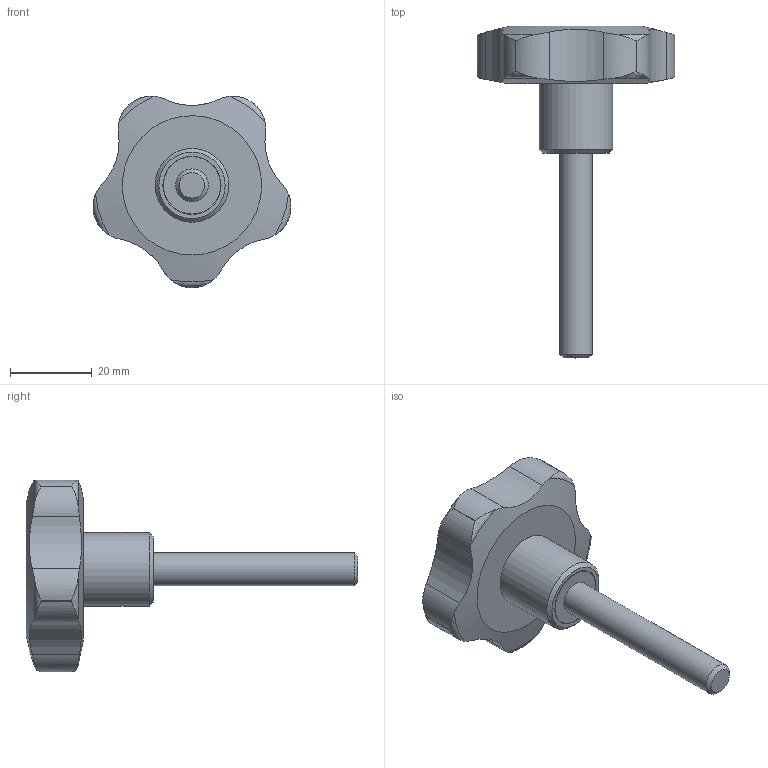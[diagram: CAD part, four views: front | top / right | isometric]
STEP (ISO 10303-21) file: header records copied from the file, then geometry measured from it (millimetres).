
FILE_DESCRIPTION( ( 'STEP AP203' ), '1' );
FILE_NAME( 'C:/Temp/Ganter_Step_05_03_2020/data/2_2/gn_5337_4/gn_5337_4_s/Star knob GN 5337.4-50-M8-50.stp', '2020-03-05T12:09:49', ( 'License CC BY-ND 4.0' ), ( 'CADENAS' ), ' ', 'PARTsolutions', ' ' );
FILE_SCHEMA( ( 'CONFIG_CONTROL_DESIGN' ) );
Length unit declared in the file: millimetre
Products named in the file (1): _Star knob GN 5337.4-50-M8-50
Bounding box: 48.32 x 81 x 46.75 mm (x, y, z)
Volume: 27048.6 mm3; surface area: 7062.9 mm2
Topology: 1 solids, 1 shells, 44 faces, 115 edges, 76 vertices
Faces by surface type: cylinder 24, torus 10, plane 5, cone 3, bspline 1, sphere 1
Full cylindrical faces by diameter (mm): 8 x1, 14 x1, 14.2 x1, 18 x1
Entity records: 1975 total; most frequent: CARTESIAN_POINT 974, ORIENTED_EDGE 204, DIRECTION 172, EDGE_CURVE 102, AXIS2_PLACEMENT_3D 76, VERTEX_POINT 74, EDGE_LOOP 56, B_SPLINE_CURVE_WITH_KNOTS 50
